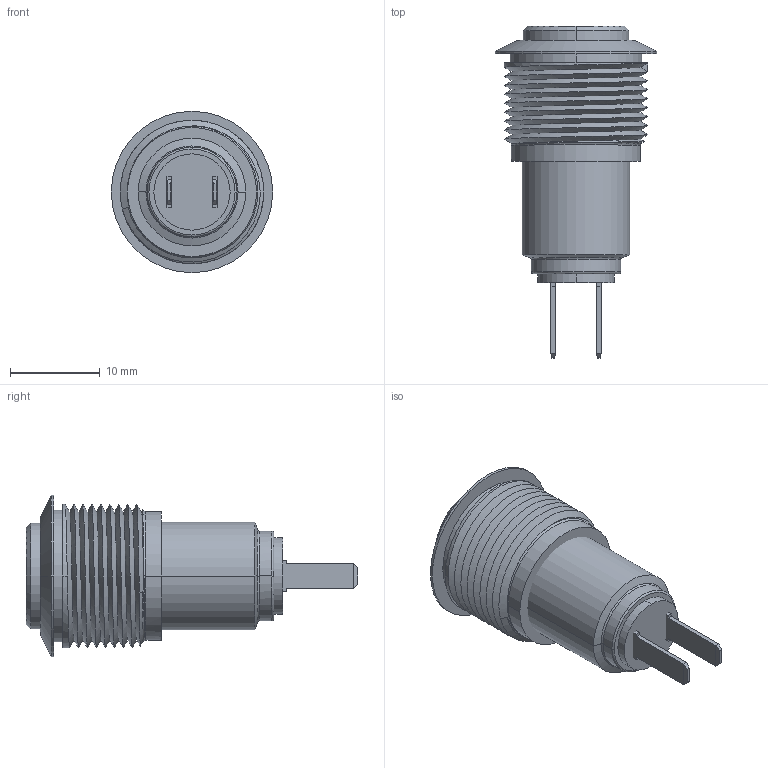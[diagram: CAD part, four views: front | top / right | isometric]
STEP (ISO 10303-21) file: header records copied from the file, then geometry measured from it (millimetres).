
FILE_DESCRIPTION((''),'2;1');
FILE_NAME('AV0611A840','2014-12-22T',('brevel'),(''),'PRO/ENGINEER BY PARAMETRIC TECHNOLOGY CORPORATION, 2013410','PRO/ENGINEER BY PARAMETRIC TECHNOLOGY CORPORATION, 2013410','');
FILE_SCHEMA(('CONFIG_CONTROL_DESIGN'));
Length unit declared in the file: millimetre
Products named in the file (1): AV0611A840
Bounding box: 18 x 37.02 x 18 mm (x, y, z)
Surface area: 3112 mm2 (no closed solid volume)
Topology: 0 solids, 8 shells, 69 faces, 226 edges, 165 vertices
Faces by surface type: plane 34, cylinder 16, cone 7, bspline 6, torus 6
Entity records: 6560 total; most frequent: CARTESIAN_POINT 4578, DIRECTION 396, ORIENTED_EDGE 391, EDGE_CURVE 226, VERTEX_POINT 165, AXIS2_PLACEMENT_3D 140, VECTOR 116, LINE 116
